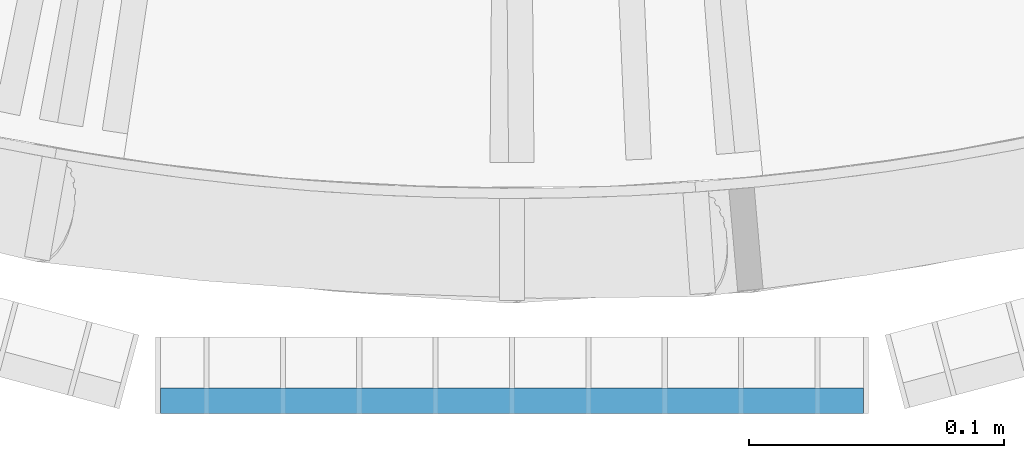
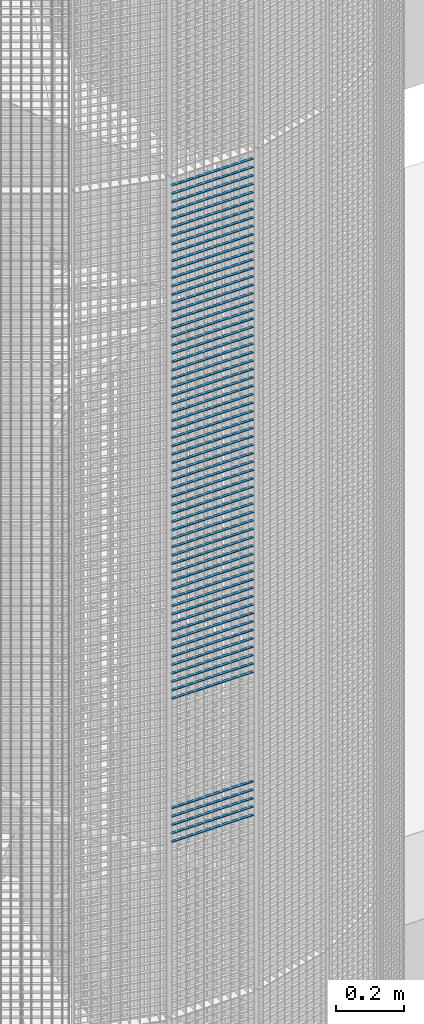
# One storey, part 388 of 1148: 67 beams, 1 element without a shape of its own.
"""IFC2X3 building model written with IfcOpenShell, lengths in millimetres."""

from ifc_helpers import new_model, si_unit, frame, origin_with_axes, origin_2d_with_axis, place, context, subcontext, project, spatial, rectangle, extrude, material, type_object, element, aggregate, save


model = new_model("IFC2X3")

# Units and contexts
model_context = context("Model", 3, precision=1e-05, world=origin_with_axes())
body_context = subcontext(model_context, "Body", "Model", "MODEL_VIEW")
ifc_project = project(units=[si_unit("LENGTHUNIT", "METRE", prefix="MILLI"), si_unit("AREAUNIT", "SQUARE_METRE"), si_unit("VOLUMEUNIT", "CUBIC_METRE"), si_unit("MASSUNIT", "GRAM", prefix="KILO"), si_unit("TIMEUNIT", "SECOND"), si_unit("PLANEANGLEUNIT", "RADIAN"), si_unit("SOLIDANGLEUNIT", "STERADIAN"), si_unit("THERMODYNAMICTEMPERATUREUNIT", "DEGREE_CELSIUS"), si_unit("LUMINOUSINTENSITYUNIT", "LUMEN")], contexts=[model_context])

# Site, building, storey
site_placement = place(None, origin_with_axes())
site = spatial("IfcSite", under=ifc_project, at=site_placement, Name="Undefined", CompositionType="ELEMENT")
building_placement = place(site_placement, origin_with_axes())
building = spatial("IfcBuilding", under=site, at=building_placement, Name="Undefined", CompositionType="ELEMENT")
storey_placement = place(building_placement, origin_with_axes())
storey = spatial("IfcBuildingStorey", under=building, at=storey_placement, Name="Undefined", CompositionType="ELEMENT", Elevation=0.0)

# Assembly, beams
assembly_placement = place(storey_placement, origin_with_axes())
assembly = element("IfcElementAssembly", 1, at=assembly_placement, inside=storey, Name="BORDURE", AssemblyPlace="NOTDEFINED", PredefinedType="NOTDEFINED")
ifc_material = material(Name="STEEL/S235JR")
beam_type = type_object("IfcBeamType", Name="PL2*10", PredefinedType="NOTDEFINED")
beam_1_placement = place(assembly_placement, frame((21737.9960033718, -1113.47999999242, 11970.0), z_axis=(0.0, -1.0, 0.0), x_axis=(-1.0, 0.0, 0.0)))
beam_1 = element("IfcBeam", 2, at=beam_1_placement, type_object=beam_type, material=ifc_material, Name="ENTRETOISE", context=body_context, shape_type="SweptSolid", body=[
    extrude(rectangle(XDim=2.0, YDim=10.0, at=origin_2d_with_axis()), frame((275.999999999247, 9.09494701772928e-13, 1.53210777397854e-14), z_axis=(-1.0, 0.0, 0.0), x_axis=(0.0, -1.0, 0.0)), (0.0, 0.0, 1.0), 276.0),
])
beam_2_placement = place(assembly_placement, frame((21737.9960033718, -1113.47999999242, 11940.0), z_axis=(0.0, -1.0, 0.0), x_axis=(-1.0, 0.0, 0.0)))
beam_2 = element("IfcBeam", 3, at=beam_2_placement, type_object=beam_type, material=ifc_material, Name="ENTRETOISE", context=body_context, shape_type="SweptSolid", body=[
    extrude(rectangle(XDim=2.0, YDim=10.0, at=origin_2d_with_axis()), frame((275.999999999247, 9.09494701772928e-13, 1.53210777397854e-14), z_axis=(-1.0, 0.0, 0.0), x_axis=(0.0, -1.0, 0.0)), (0.0, 0.0, 1.0), 276.0),
])
beam_3_placement = place(assembly_placement, frame((21737.9960033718, -1113.47999999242, 11910.0), z_axis=(0.0, -1.0, 0.0), x_axis=(-1.0, 0.0, 0.0)))
beam_3 = element("IfcBeam", 4, at=beam_3_placement, type_object=beam_type, material=ifc_material, Name="ENTRETOISE", context=body_context, shape_type="SweptSolid", body=[
    extrude(rectangle(XDim=2.0, YDim=10.0, at=origin_2d_with_axis()), frame((275.999999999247, 9.09494701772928e-13, 1.53210777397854e-14), z_axis=(-1.0, 0.0, 0.0), x_axis=(0.0, -1.0, 0.0)), (0.0, 0.0, 1.0), 276.0),
])
beam_4_placement = place(assembly_placement, frame((21737.9960033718, -1113.47999999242, 11880.0), z_axis=(0.0, -1.0, 0.0), x_axis=(-1.0, 0.0, 0.0)))
beam_4 = element("IfcBeam", 5, at=beam_4_placement, type_object=beam_type, material=ifc_material, Name="ENTRETOISE", context=body_context, shape_type="SweptSolid", body=[
    extrude(rectangle(XDim=2.0, YDim=10.0, at=origin_2d_with_axis()), frame((275.999999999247, 9.09494701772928e-13, 1.53210777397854e-14), z_axis=(-1.0, 0.0, 0.0), x_axis=(0.0, -1.0, 0.0)), (0.0, 0.0, 1.0), 276.0),
])
beam_5_placement = place(assembly_placement, frame((21737.9960033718, -1113.47999999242, 11850.0), z_axis=(0.0, -1.0, 0.0), x_axis=(-1.0, 0.0, 0.0)))
beam_5 = element("IfcBeam", 6, at=beam_5_placement, type_object=beam_type, material=ifc_material, Name="ENTRETOISE", context=body_context, shape_type="SweptSolid", body=[
    extrude(rectangle(XDim=2.0, YDim=10.0, at=origin_2d_with_axis()), frame((275.999999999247, 9.09494701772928e-13, 1.53210777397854e-14), z_axis=(-1.0, 0.0, 0.0), x_axis=(0.0, -1.0, 0.0)), (0.0, 0.0, 1.0), 276.0),
])
beam_6_placement = place(assembly_placement, frame((21737.9960033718, -1113.47999999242, 11820.0), z_axis=(0.0, -1.0, 0.0), x_axis=(-1.0, 0.0, 0.0)))
beam_6 = element("IfcBeam", 7, at=beam_6_placement, type_object=beam_type, material=ifc_material, Name="ENTRETOISE", context=body_context, shape_type="SweptSolid", body=[
    extrude(rectangle(XDim=2.0, YDim=10.0, at=origin_2d_with_axis()), frame((275.999999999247, 9.09494701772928e-13, 1.53210777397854e-14), z_axis=(-1.0, 0.0, 0.0), x_axis=(0.0, -1.0, 0.0)), (0.0, 0.0, 1.0), 276.0),
])
beam_7_placement = place(assembly_placement, frame((21737.9960033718, -1113.47999999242, 11790.0), z_axis=(0.0, -1.0, 0.0), x_axis=(-1.0, 0.0, 0.0)))
beam_7 = element("IfcBeam", 8, at=beam_7_placement, type_object=beam_type, material=ifc_material, Name="ENTRETOISE", context=body_context, shape_type="SweptSolid", body=[
    extrude(rectangle(XDim=2.0, YDim=10.0, at=origin_2d_with_axis()), frame((275.999999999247, 9.09494701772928e-13, 1.53210777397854e-14), z_axis=(-1.0, 0.0, 0.0), x_axis=(0.0, -1.0, 0.0)), (0.0, 0.0, 1.0), 276.0),
])
beam_8_placement = place(assembly_placement, frame((21737.9960033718, -1113.47999999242, 11760.0), z_axis=(0.0, -1.0, 0.0), x_axis=(-1.0, 0.0, 0.0)))
beam_8 = element("IfcBeam", 9, at=beam_8_placement, type_object=beam_type, material=ifc_material, Name="ENTRETOISE", context=body_context, shape_type="SweptSolid", body=[
    extrude(rectangle(XDim=2.0, YDim=10.0, at=origin_2d_with_axis()), frame((275.999999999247, 9.09494701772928e-13, 1.53210777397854e-14), z_axis=(-1.0, 0.0, 0.0), x_axis=(0.0, -1.0, 0.0)), (0.0, 0.0, 1.0), 276.0),
])
beam_9_placement = place(assembly_placement, frame((21737.9960033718, -1113.47999999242, 11730.0), z_axis=(0.0, -1.0, 0.0), x_axis=(-1.0, 0.0, 0.0)))
beam_9 = element("IfcBeam", 10, at=beam_9_placement, type_object=beam_type, material=ifc_material, Name="ENTRETOISE", context=body_context, shape_type="SweptSolid", body=[
    extrude(rectangle(XDim=2.0, YDim=10.0, at=origin_2d_with_axis()), frame((275.999999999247, 9.09494701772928e-13, 1.53210777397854e-14), z_axis=(-1.0, 0.0, 0.0), x_axis=(0.0, -1.0, 0.0)), (0.0, 0.0, 1.0), 276.0),
])
beam_10_placement = place(assembly_placement, frame((21737.9960033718, -1113.47999999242, 11700.0), z_axis=(0.0, -1.0, 0.0), x_axis=(-1.0, 0.0, 0.0)))
beam_10 = element("IfcBeam", 11, at=beam_10_placement, type_object=beam_type, material=ifc_material, Name="ENTRETOISE", context=body_context, shape_type="SweptSolid", body=[
    extrude(rectangle(XDim=2.0, YDim=10.0, at=origin_2d_with_axis()), frame((275.999999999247, 9.09494701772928e-13, 1.53210777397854e-14), z_axis=(-1.0, 0.0, 0.0), x_axis=(0.0, -1.0, 0.0)), (0.0, 0.0, 1.0), 276.0),
])
beam_11_placement = place(assembly_placement, frame((21737.9960033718, -1113.47999999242, 11670.0), z_axis=(0.0, -1.0, 0.0), x_axis=(-1.0, 0.0, 0.0)))
beam_11 = element("IfcBeam", 12, at=beam_11_placement, type_object=beam_type, material=ifc_material, Name="ENTRETOISE", context=body_context, shape_type="SweptSolid", body=[
    extrude(rectangle(XDim=2.0, YDim=10.0, at=origin_2d_with_axis()), frame((275.999999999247, 9.09494701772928e-13, 1.53210777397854e-14), z_axis=(-1.0, 0.0, 0.0), x_axis=(0.0, -1.0, 0.0)), (0.0, 0.0, 1.0), 276.0),
])
beam_12_placement = place(assembly_placement, frame((21737.9960033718, -1113.47999999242, 11640.0), z_axis=(0.0, -1.0, 0.0), x_axis=(-1.0, 0.0, 0.0)))
beam_12 = element("IfcBeam", 13, at=beam_12_placement, type_object=beam_type, material=ifc_material, Name="ENTRETOISE", context=body_context, shape_type="SweptSolid", body=[
    extrude(rectangle(XDim=2.0, YDim=10.0, at=origin_2d_with_axis()), frame((275.999999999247, 9.09494701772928e-13, 1.53210777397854e-14), z_axis=(-1.0, 0.0, 0.0), x_axis=(0.0, -1.0, 0.0)), (0.0, 0.0, 1.0), 276.0),
])
beam_13_placement = place(assembly_placement, frame((21737.9960033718, -1113.47999999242, 11610.0), z_axis=(0.0, -1.0, 0.0), x_axis=(-1.0, 0.0, 0.0)))
beam_13 = element("IfcBeam", 14, at=beam_13_placement, type_object=beam_type, material=ifc_material, Name="ENTRETOISE", context=body_context, shape_type="SweptSolid", body=[
    extrude(rectangle(XDim=2.0, YDim=10.0, at=origin_2d_with_axis()), frame((275.999999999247, 9.09494701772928e-13, 1.53210777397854e-14), z_axis=(-1.0, 0.0, 0.0), x_axis=(0.0, -1.0, 0.0)), (0.0, 0.0, 1.0), 276.0),
])
beam_14_placement = place(assembly_placement, frame((21737.9960033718, -1113.47999999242, 11580.0), z_axis=(0.0, -1.0, 0.0), x_axis=(-1.0, 0.0, 0.0)))
beam_14 = element("IfcBeam", 15, at=beam_14_placement, type_object=beam_type, material=ifc_material, Name="ENTRETOISE", context=body_context, shape_type="SweptSolid", body=[
    extrude(rectangle(XDim=2.0, YDim=10.0, at=origin_2d_with_axis()), frame((275.999999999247, 9.09494701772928e-13, 1.53210777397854e-14), z_axis=(-1.0, 0.0, 0.0), x_axis=(0.0, -1.0, 0.0)), (0.0, 0.0, 1.0), 276.0),
])
beam_15_placement = place(assembly_placement, frame((21737.9960033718, -1113.47999999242, 11550.0), z_axis=(0.0, -1.0, 0.0), x_axis=(-1.0, 0.0, 0.0)))
beam_15 = element("IfcBeam", 16, at=beam_15_placement, type_object=beam_type, material=ifc_material, Name="ENTRETOISE", context=body_context, shape_type="SweptSolid", body=[
    extrude(rectangle(XDim=2.0, YDim=10.0, at=origin_2d_with_axis()), frame((275.999999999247, 9.09494701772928e-13, 1.53210777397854e-14), z_axis=(-1.0, 0.0, 0.0), x_axis=(0.0, -1.0, 0.0)), (0.0, 0.0, 1.0), 276.0),
])
beam_16_placement = place(assembly_placement, frame((21737.9960033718, -1113.47999999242, 11520.0), z_axis=(0.0, -1.0, 0.0), x_axis=(-1.0, 0.0, 0.0)))
beam_16 = element("IfcBeam", 17, at=beam_16_placement, type_object=beam_type, material=ifc_material, Name="ENTRETOISE", context=body_context, shape_type="SweptSolid", body=[
    extrude(rectangle(XDim=2.0, YDim=10.0, at=origin_2d_with_axis()), frame((275.999999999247, 9.09494701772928e-13, 1.53210777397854e-14), z_axis=(-1.0, 0.0, 0.0), x_axis=(0.0, -1.0, 0.0)), (0.0, 0.0, 1.0), 276.0),
])
beam_17_placement = place(assembly_placement, frame((21737.9960033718, -1113.47999999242, 11490.0), z_axis=(0.0, -1.0, 0.0), x_axis=(-1.0, 0.0, 0.0)))
beam_17 = element("IfcBeam", 18, at=beam_17_placement, type_object=beam_type, material=ifc_material, Name="ENTRETOISE", context=body_context, shape_type="SweptSolid", body=[
    extrude(rectangle(XDim=2.0, YDim=10.0, at=origin_2d_with_axis()), frame((275.999999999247, 9.09494701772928e-13, 1.53210777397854e-14), z_axis=(-1.0, 0.0, 0.0), x_axis=(0.0, -1.0, 0.0)), (0.0, 0.0, 1.0), 276.0),
])
beam_18_placement = place(assembly_placement, frame((21737.9960033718, -1113.47999999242, 11460.0), z_axis=(0.0, -1.0, 0.0), x_axis=(-1.0, 0.0, 0.0)))
beam_18 = element("IfcBeam", 19, at=beam_18_placement, type_object=beam_type, material=ifc_material, Name="ENTRETOISE", context=body_context, shape_type="SweptSolid", body=[
    extrude(rectangle(XDim=2.0, YDim=10.0, at=origin_2d_with_axis()), frame((275.999999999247, 9.09494701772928e-13, 1.53210777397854e-14), z_axis=(-1.0, 0.0, 0.0), x_axis=(0.0, -1.0, 0.0)), (0.0, 0.0, 1.0), 276.0),
])
beam_19_placement = place(assembly_placement, frame((21737.9960033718, -1113.47999999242, 11430.0), z_axis=(0.0, -1.0, 0.0), x_axis=(-1.0, 0.0, 0.0)))
beam_19 = element("IfcBeam", 20, at=beam_19_placement, type_object=beam_type, material=ifc_material, Name="ENTRETOISE", context=body_context, shape_type="SweptSolid", body=[
    extrude(rectangle(XDim=2.0, YDim=10.0, at=origin_2d_with_axis()), frame((275.999999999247, 9.09494701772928e-13, 1.53210777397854e-14), z_axis=(-1.0, 0.0, 0.0), x_axis=(0.0, -1.0, 0.0)), (0.0, 0.0, 1.0), 276.0),
])
beam_20_placement = place(assembly_placement, frame((21737.9960033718, -1113.47999999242, 11400.0), z_axis=(0.0, -1.0, 0.0), x_axis=(-1.0, 0.0, 0.0)))
beam_20 = element("IfcBeam", 21, at=beam_20_placement, type_object=beam_type, material=ifc_material, Name="ENTRETOISE", context=body_context, shape_type="SweptSolid", body=[
    extrude(rectangle(XDim=2.0, YDim=10.0, at=origin_2d_with_axis()), frame((275.999999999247, 9.09494701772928e-13, 1.53210777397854e-14), z_axis=(-1.0, 0.0, 0.0), x_axis=(0.0, -1.0, 0.0)), (0.0, 0.0, 1.0), 276.0),
])
beam_21_placement = place(assembly_placement, frame((21737.9960033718, -1113.47999999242, 11370.0), z_axis=(0.0, -1.0, 0.0), x_axis=(-1.0, 0.0, 0.0)))
beam_21 = element("IfcBeam", 22, at=beam_21_placement, type_object=beam_type, material=ifc_material, Name="ENTRETOISE", context=body_context, shape_type="SweptSolid", body=[
    extrude(rectangle(XDim=2.0, YDim=10.0, at=origin_2d_with_axis()), frame((275.999999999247, 9.09494701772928e-13, 1.53210777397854e-14), z_axis=(-1.0, 0.0, 0.0), x_axis=(0.0, -1.0, 0.0)), (0.0, 0.0, 1.0), 276.0),
])
beam_22_placement = place(assembly_placement, frame((21737.9960033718, -1113.47999999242, 11340.0), z_axis=(0.0, -1.0, 0.0), x_axis=(-1.0, 0.0, 0.0)))
beam_22 = element("IfcBeam", 23, at=beam_22_placement, type_object=beam_type, material=ifc_material, Name="ENTRETOISE", context=body_context, shape_type="SweptSolid", body=[
    extrude(rectangle(XDim=2.0, YDim=10.0, at=origin_2d_with_axis()), frame((275.999999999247, 9.09494701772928e-13, 1.53210777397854e-14), z_axis=(-1.0, 0.0, 0.0), x_axis=(0.0, -1.0, 0.0)), (0.0, 0.0, 1.0), 276.0),
])
beam_23_placement = place(assembly_placement, frame((21737.9960033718, -1113.47999999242, 11310.0), z_axis=(0.0, -1.0, 0.0), x_axis=(-1.0, 0.0, 0.0)))
beam_23 = element("IfcBeam", 24, at=beam_23_placement, type_object=beam_type, material=ifc_material, Name="ENTRETOISE", context=body_context, shape_type="SweptSolid", body=[
    extrude(rectangle(XDim=2.0, YDim=10.0, at=origin_2d_with_axis()), frame((275.999999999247, 9.09494701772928e-13, 1.53210777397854e-14), z_axis=(-1.0, 0.0, 0.0), x_axis=(0.0, -1.0, 0.0)), (0.0, 0.0, 1.0), 276.0),
])
beam_24_placement = place(assembly_placement, frame((21737.9960033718, -1113.47999999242, 11280.0), z_axis=(0.0, -1.0, 0.0), x_axis=(-1.0, 0.0, 0.0)))
beam_24 = element("IfcBeam", 25, at=beam_24_placement, type_object=beam_type, material=ifc_material, Name="ENTRETOISE", context=body_context, shape_type="SweptSolid", body=[
    extrude(rectangle(XDim=2.0, YDim=10.0, at=origin_2d_with_axis()), frame((275.999999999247, 9.09494701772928e-13, 1.53210777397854e-14), z_axis=(-1.0, 0.0, 0.0), x_axis=(0.0, -1.0, 0.0)), (0.0, 0.0, 1.0), 276.0),
])
beam_25_placement = place(assembly_placement, frame((21737.9960033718, -1113.47999999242, 11250.0), z_axis=(0.0, -1.0, 0.0), x_axis=(-1.0, 0.0, 0.0)))
beam_25 = element("IfcBeam", 26, at=beam_25_placement, type_object=beam_type, material=ifc_material, Name="ENTRETOISE", context=body_context, shape_type="SweptSolid", body=[
    extrude(rectangle(XDim=2.0, YDim=10.0, at=origin_2d_with_axis()), frame((275.999999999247, 9.09494701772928e-13, 1.53210777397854e-14), z_axis=(-1.0, 0.0, 0.0), x_axis=(0.0, -1.0, 0.0)), (0.0, 0.0, 1.0), 276.0),
])
beam_26_placement = place(assembly_placement, frame((21737.9960033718, -1113.47999999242, 11220.0), z_axis=(0.0, -1.0, 0.0), x_axis=(-1.0, 0.0, 0.0)))
beam_26 = element("IfcBeam", 27, at=beam_26_placement, type_object=beam_type, material=ifc_material, Name="ENTRETOISE", context=body_context, shape_type="SweptSolid", body=[
    extrude(rectangle(XDim=2.0, YDim=10.0, at=origin_2d_with_axis()), frame((275.999999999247, 9.09494701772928e-13, 1.53210777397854e-14), z_axis=(-1.0, 0.0, 0.0), x_axis=(0.0, -1.0, 0.0)), (0.0, 0.0, 1.0), 276.0),
])
beam_27_placement = place(assembly_placement, frame((21737.9960033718, -1113.47999999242, 11190.0), z_axis=(0.0, -1.0, 0.0), x_axis=(-1.0, 0.0, 0.0)))
beam_27 = element("IfcBeam", 28, at=beam_27_placement, type_object=beam_type, material=ifc_material, Name="ENTRETOISE", context=body_context, shape_type="SweptSolid", body=[
    extrude(rectangle(XDim=2.0, YDim=10.0, at=origin_2d_with_axis()), frame((275.999999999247, 9.09494701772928e-13, 1.53210777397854e-14), z_axis=(-1.0, 0.0, 0.0), x_axis=(0.0, -1.0, 0.0)), (0.0, 0.0, 1.0), 276.0),
])
beam_28_placement = place(assembly_placement, frame((21737.9960033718, -1113.47999999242, 11160.0), z_axis=(0.0, -1.0, 0.0), x_axis=(-1.0, 0.0, 0.0)))
beam_28 = element("IfcBeam", 29, at=beam_28_placement, type_object=beam_type, material=ifc_material, Name="ENTRETOISE", context=body_context, shape_type="SweptSolid", body=[
    extrude(rectangle(XDim=2.0, YDim=10.0, at=origin_2d_with_axis()), frame((275.999999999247, 9.09494701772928e-13, 1.53210777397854e-14), z_axis=(-1.0, 0.0, 0.0), x_axis=(0.0, -1.0, 0.0)), (0.0, 0.0, 1.0), 276.0),
])
beam_29_placement = place(assembly_placement, frame((21737.9960033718, -1113.47999999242, 11130.0), z_axis=(0.0, -1.0, 0.0), x_axis=(-1.0, 0.0, 0.0)))
beam_29 = element("IfcBeam", 30, at=beam_29_placement, type_object=beam_type, material=ifc_material, Name="ENTRETOISE", context=body_context, shape_type="SweptSolid", body=[
    extrude(rectangle(XDim=2.0, YDim=10.0, at=origin_2d_with_axis()), frame((275.999999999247, 9.09494701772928e-13, 1.53210777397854e-14), z_axis=(-1.0, 0.0, 0.0), x_axis=(0.0, -1.0, 0.0)), (0.0, 0.0, 1.0), 276.0),
])
beam_30_placement = place(assembly_placement, frame((21737.9960033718, -1113.47999999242, 11100.0), z_axis=(0.0, -1.0, 0.0), x_axis=(-1.0, 0.0, 0.0)))
beam_30 = element("IfcBeam", 31, at=beam_30_placement, type_object=beam_type, material=ifc_material, Name="ENTRETOISE", context=body_context, shape_type="SweptSolid", body=[
    extrude(rectangle(XDim=2.0, YDim=10.0, at=origin_2d_with_axis()), frame((275.999999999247, 9.09494701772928e-13, 1.53210777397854e-14), z_axis=(-1.0, 0.0, 0.0), x_axis=(0.0, -1.0, 0.0)), (0.0, 0.0, 1.0), 276.0),
])
beam_31_placement = place(assembly_placement, frame((21737.9960033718, -1113.47999999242, 11070.0), z_axis=(0.0, -1.0, 0.0), x_axis=(-1.0, 0.0, 0.0)))
beam_31 = element("IfcBeam", 32, at=beam_31_placement, type_object=beam_type, material=ifc_material, Name="ENTRETOISE", context=body_context, shape_type="SweptSolid", body=[
    extrude(rectangle(XDim=2.0, YDim=10.0, at=origin_2d_with_axis()), frame((275.999999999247, 9.09494701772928e-13, 1.53210777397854e-14), z_axis=(-1.0, 0.0, 0.0), x_axis=(0.0, -1.0, 0.0)), (0.0, 0.0, 1.0), 276.0),
])
beam_32_placement = place(assembly_placement, frame((21737.9960033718, -1113.47999999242, 11040.0), z_axis=(0.0, -1.0, 0.0), x_axis=(-1.0, 0.0, 0.0)))
beam_32 = element("IfcBeam", 33, at=beam_32_placement, type_object=beam_type, material=ifc_material, Name="ENTRETOISE", context=body_context, shape_type="SweptSolid", body=[
    extrude(rectangle(XDim=2.0, YDim=10.0, at=origin_2d_with_axis()), frame((275.999999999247, 9.09494701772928e-13, 1.53210777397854e-14), z_axis=(-1.0, 0.0, 0.0), x_axis=(0.0, -1.0, 0.0)), (0.0, 0.0, 1.0), 276.0),
])
beam_33_placement = place(assembly_placement, frame((21737.9960033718, -1113.47999999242, 11010.0), z_axis=(0.0, -1.0, 0.0), x_axis=(-1.0, 0.0, 0.0)))
beam_33 = element("IfcBeam", 34, at=beam_33_placement, type_object=beam_type, material=ifc_material, Name="ENTRETOISE", context=body_context, shape_type="SweptSolid", body=[
    extrude(rectangle(XDim=2.0, YDim=10.0, at=origin_2d_with_axis()), frame((275.999999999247, 9.09494701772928e-13, 1.53210777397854e-14), z_axis=(-1.0, 0.0, 0.0), x_axis=(0.0, -1.0, 0.0)), (0.0, 0.0, 1.0), 276.0),
])
beam_34_placement = place(assembly_placement, frame((21737.9960033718, -1113.47999999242, 10980.0), z_axis=(0.0, -1.0, 0.0), x_axis=(-1.0, 0.0, 0.0)))
beam_34 = element("IfcBeam", 35, at=beam_34_placement, type_object=beam_type, material=ifc_material, Name="ENTRETOISE", context=body_context, shape_type="SweptSolid", body=[
    extrude(rectangle(XDim=2.0, YDim=10.0, at=origin_2d_with_axis()), frame((275.999999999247, 9.09494701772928e-13, 1.53210777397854e-14), z_axis=(-1.0, 0.0, 0.0), x_axis=(0.0, -1.0, 0.0)), (0.0, 0.0, 1.0), 276.0),
])
beam_35_placement = place(assembly_placement, frame((21737.9960033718, -1113.47999999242, 10950.0), z_axis=(0.0, -1.0, 0.0), x_axis=(-1.0, 0.0, 0.0)))
beam_35 = element("IfcBeam", 36, at=beam_35_placement, type_object=beam_type, material=ifc_material, Name="ENTRETOISE", context=body_context, shape_type="SweptSolid", body=[
    extrude(rectangle(XDim=2.0, YDim=10.0, at=origin_2d_with_axis()), frame((275.999999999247, 9.09494701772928e-13, 1.53210777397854e-14), z_axis=(-1.0, 0.0, 0.0), x_axis=(0.0, -1.0, 0.0)), (0.0, 0.0, 1.0), 276.0),
])
beam_36_placement = place(assembly_placement, frame((21737.9960033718, -1113.47999999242, 10920.0), z_axis=(0.0, -1.0, 0.0), x_axis=(-1.0, 0.0, 0.0)))
beam_36 = element("IfcBeam", 37, at=beam_36_placement, type_object=beam_type, material=ifc_material, Name="ENTRETOISE", context=body_context, shape_type="SweptSolid", body=[
    extrude(rectangle(XDim=2.0, YDim=10.0, at=origin_2d_with_axis()), frame((275.999999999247, 9.09494701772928e-13, 1.53210777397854e-14), z_axis=(-1.0, 0.0, 0.0), x_axis=(0.0, -1.0, 0.0)), (0.0, 0.0, 1.0), 276.0),
])
beam_37_placement = place(assembly_placement, frame((21737.9960033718, -1113.47999999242, 10890.0), z_axis=(0.0, -1.0, 0.0), x_axis=(-1.0, 0.0, 0.0)))
beam_37 = element("IfcBeam", 38, at=beam_37_placement, type_object=beam_type, material=ifc_material, Name="ENTRETOISE", context=body_context, shape_type="SweptSolid", body=[
    extrude(rectangle(XDim=2.0, YDim=10.0, at=origin_2d_with_axis()), frame((275.999999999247, 9.09494701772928e-13, 1.53210777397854e-14), z_axis=(-1.0, 0.0, 0.0), x_axis=(0.0, -1.0, 0.0)), (0.0, 0.0, 1.0), 276.0),
])
beam_38_placement = place(assembly_placement, frame((21737.9960033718, -1113.47999999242, 10860.0), z_axis=(0.0, -1.0, 0.0), x_axis=(-1.0, 0.0, 0.0)))
beam_38 = element("IfcBeam", 39, at=beam_38_placement, type_object=beam_type, material=ifc_material, Name="ENTRETOISE", context=body_context, shape_type="SweptSolid", body=[
    extrude(rectangle(XDim=2.0, YDim=10.0, at=origin_2d_with_axis()), frame((275.999999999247, 9.09494701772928e-13, 1.53210777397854e-14), z_axis=(-1.0, 0.0, 0.0), x_axis=(0.0, -1.0, 0.0)), (0.0, 0.0, 1.0), 276.0),
])
beam_39_placement = place(assembly_placement, frame((21737.9960033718, -1113.47999999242, 10830.0), z_axis=(0.0, -1.0, 0.0), x_axis=(-1.0, 0.0, 0.0)))
beam_39 = element("IfcBeam", 40, at=beam_39_placement, type_object=beam_type, material=ifc_material, Name="ENTRETOISE", context=body_context, shape_type="SweptSolid", body=[
    extrude(rectangle(XDim=2.0, YDim=10.0, at=origin_2d_with_axis()), frame((275.999999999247, 9.09494701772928e-13, 1.53210777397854e-14), z_axis=(-1.0, 0.0, 0.0), x_axis=(0.0, -1.0, 0.0)), (0.0, 0.0, 1.0), 276.0),
])
beam_40_placement = place(assembly_placement, frame((21737.9960033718, -1113.47999999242, 10800.0), z_axis=(0.0, -1.0, 0.0), x_axis=(-1.0, 0.0, 0.0)))
beam_40 = element("IfcBeam", 41, at=beam_40_placement, type_object=beam_type, material=ifc_material, Name="ENTRETOISE", context=body_context, shape_type="SweptSolid", body=[
    extrude(rectangle(XDim=2.0, YDim=10.0, at=origin_2d_with_axis()), frame((275.999999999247, 9.09494701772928e-13, 1.53210777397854e-14), z_axis=(-1.0, 0.0, 0.0), x_axis=(0.0, -1.0, 0.0)), (0.0, 0.0, 1.0), 276.0),
])
beam_41_placement = place(assembly_placement, frame((21737.9960033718, -1113.47999999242, 10770.0), z_axis=(0.0, -1.0, 0.0), x_axis=(-1.0, 0.0, 0.0)))
beam_41 = element("IfcBeam", 42, at=beam_41_placement, type_object=beam_type, material=ifc_material, Name="ENTRETOISE", context=body_context, shape_type="SweptSolid", body=[
    extrude(rectangle(XDim=2.0, YDim=10.0, at=origin_2d_with_axis()), frame((275.999999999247, 9.09494701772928e-13, 1.53210777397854e-14), z_axis=(-1.0, 0.0, 0.0), x_axis=(0.0, -1.0, 0.0)), (0.0, 0.0, 1.0), 276.0),
])
beam_42_placement = place(assembly_placement, frame((21737.9960033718, -1113.47999999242, 10740.0), z_axis=(0.0, -1.0, 0.0), x_axis=(-1.0, 0.0, 0.0)))
beam_42 = element("IfcBeam", 43, at=beam_42_placement, type_object=beam_type, material=ifc_material, Name="ENTRETOISE", context=body_context, shape_type="SweptSolid", body=[
    extrude(rectangle(XDim=2.0, YDim=10.0, at=origin_2d_with_axis()), frame((275.999999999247, 9.09494701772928e-13, 1.53210777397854e-14), z_axis=(-1.0, 0.0, 0.0), x_axis=(0.0, -1.0, 0.0)), (0.0, 0.0, 1.0), 276.0),
])
beam_43_placement = place(assembly_placement, frame((21737.9960033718, -1113.47999999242, 10710.0), z_axis=(0.0, -1.0, 0.0), x_axis=(-1.0, 0.0, 0.0)))
beam_43 = element("IfcBeam", 44, at=beam_43_placement, type_object=beam_type, material=ifc_material, Name="ENTRETOISE", context=body_context, shape_type="SweptSolid", body=[
    extrude(rectangle(XDim=2.0, YDim=10.0, at=origin_2d_with_axis()), frame((275.999999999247, 9.09494701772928e-13, 1.53210777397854e-14), z_axis=(-1.0, 0.0, 0.0), x_axis=(0.0, -1.0, 0.0)), (0.0, 0.0, 1.0), 276.0),
])
beam_44_placement = place(assembly_placement, frame((21737.9960033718, -1113.47999999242, 10680.0), z_axis=(0.0, -1.0, 0.0), x_axis=(-1.0, 0.0, 0.0)))
beam_44 = element("IfcBeam", 45, at=beam_44_placement, type_object=beam_type, material=ifc_material, Name="ENTRETOISE", context=body_context, shape_type="SweptSolid", body=[
    extrude(rectangle(XDim=2.0, YDim=10.0, at=origin_2d_with_axis()), frame((275.999999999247, 9.09494701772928e-13, 1.53210777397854e-14), z_axis=(-1.0, 0.0, 0.0), x_axis=(0.0, -1.0, 0.0)), (0.0, 0.0, 1.0), 276.0),
])
beam_45_placement = place(assembly_placement, frame((21737.9960033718, -1113.47999999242, 10650.0), z_axis=(0.0, -1.0, 0.0), x_axis=(-1.0, 0.0, 0.0)))
beam_45 = element("IfcBeam", 46, at=beam_45_placement, type_object=beam_type, material=ifc_material, Name="ENTRETOISE", context=body_context, shape_type="SweptSolid", body=[
    extrude(rectangle(XDim=2.0, YDim=10.0, at=origin_2d_with_axis()), frame((275.999999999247, 9.09494701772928e-13, 1.53210777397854e-14), z_axis=(-1.0, 0.0, 0.0), x_axis=(0.0, -1.0, 0.0)), (0.0, 0.0, 1.0), 276.0),
])
beam_46_placement = place(assembly_placement, frame((21737.9960033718, -1113.47999999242, 10620.0), z_axis=(0.0, -1.0, 0.0), x_axis=(-1.0, 0.0, 0.0)))
beam_46 = element("IfcBeam", 47, at=beam_46_placement, type_object=beam_type, material=ifc_material, Name="ENTRETOISE", context=body_context, shape_type="SweptSolid", body=[
    extrude(rectangle(XDim=2.0, YDim=10.0, at=origin_2d_with_axis()), frame((275.999999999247, 9.09494701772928e-13, 1.53210777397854e-14), z_axis=(-1.0, 0.0, 0.0), x_axis=(0.0, -1.0, 0.0)), (0.0, 0.0, 1.0), 276.0),
])
beam_47_placement = place(assembly_placement, frame((21737.9960033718, -1113.47999999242, 10590.0), z_axis=(0.0, -1.0, 0.0), x_axis=(-1.0, 0.0, 0.0)))
beam_47 = element("IfcBeam", 48, at=beam_47_placement, type_object=beam_type, material=ifc_material, Name="ENTRETOISE", context=body_context, shape_type="SweptSolid", body=[
    extrude(rectangle(XDim=2.0, YDim=10.0, at=origin_2d_with_axis()), frame((275.999999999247, 9.09494701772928e-13, 1.53210777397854e-14), z_axis=(-1.0, 0.0, 0.0), x_axis=(0.0, -1.0, 0.0)), (0.0, 0.0, 1.0), 276.0),
])
beam_48_placement = place(assembly_placement, frame((21737.9960033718, -1113.47999999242, 10560.0), z_axis=(0.0, -1.0, 0.0), x_axis=(-1.0, 0.0, 0.0)))
beam_48 = element("IfcBeam", 49, at=beam_48_placement, type_object=beam_type, material=ifc_material, Name="ENTRETOISE", context=body_context, shape_type="SweptSolid", body=[
    extrude(rectangle(XDim=2.0, YDim=10.0, at=origin_2d_with_axis()), frame((275.999999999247, 9.09494701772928e-13, 1.53210777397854e-14), z_axis=(-1.0, 0.0, 0.0), x_axis=(0.0, -1.0, 0.0)), (0.0, 0.0, 1.0), 276.0),
])
beam_49_placement = place(assembly_placement, frame((21737.9960033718, -1113.47999999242, 10530.0), z_axis=(0.0, -1.0, 0.0), x_axis=(-1.0, 0.0, 0.0)))
beam_49 = element("IfcBeam", 50, at=beam_49_placement, type_object=beam_type, material=ifc_material, Name="ENTRETOISE", context=body_context, shape_type="SweptSolid", body=[
    extrude(rectangle(XDim=2.0, YDim=10.0, at=origin_2d_with_axis()), frame((275.999999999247, 9.09494701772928e-13, 1.53210777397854e-14), z_axis=(-1.0, 0.0, 0.0), x_axis=(0.0, -1.0, 0.0)), (0.0, 0.0, 1.0), 276.0),
])
beam_50_placement = place(assembly_placement, frame((21737.9960033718, -1113.47999999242, 10500.0), z_axis=(0.0, -1.0, 0.0), x_axis=(-1.0, 0.0, 0.0)))
beam_50 = element("IfcBeam", 51, at=beam_50_placement, type_object=beam_type, material=ifc_material, Name="ENTRETOISE", context=body_context, shape_type="SweptSolid", body=[
    extrude(rectangle(XDim=2.0, YDim=10.0, at=origin_2d_with_axis()), frame((275.999999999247, 9.09494701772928e-13, 1.53210777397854e-14), z_axis=(-1.0, 0.0, 0.0), x_axis=(0.0, -1.0, 0.0)), (0.0, 0.0, 1.0), 276.0),
])
beam_51_placement = place(assembly_placement, frame((21737.9960033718, -1113.47999999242, 10470.0), z_axis=(0.0, -1.0, 0.0), x_axis=(-1.0, 0.0, 0.0)))
beam_51 = element("IfcBeam", 52, at=beam_51_placement, type_object=beam_type, material=ifc_material, Name="ENTRETOISE", context=body_context, shape_type="SweptSolid", body=[
    extrude(rectangle(XDim=2.0, YDim=10.0, at=origin_2d_with_axis()), frame((275.999999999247, 9.09494701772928e-13, 1.53210777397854e-14), z_axis=(-1.0, 0.0, 0.0), x_axis=(0.0, -1.0, 0.0)), (0.0, 0.0, 1.0), 276.0),
])
beam_52_placement = place(assembly_placement, frame((21737.9960033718, -1113.47999999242, 10440.0), z_axis=(0.0, -1.0, 0.0), x_axis=(-1.0, 0.0, 0.0)))
beam_52 = element("IfcBeam", 53, at=beam_52_placement, type_object=beam_type, material=ifc_material, Name="ENTRETOISE", context=body_context, shape_type="SweptSolid", body=[
    extrude(rectangle(XDim=2.0, YDim=10.0, at=origin_2d_with_axis()), frame((275.999999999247, 9.09494701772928e-13, 1.53210777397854e-14), z_axis=(-1.0, 0.0, 0.0), x_axis=(0.0, -1.0, 0.0)), (0.0, 0.0, 1.0), 276.0),
])
beam_53_placement = place(assembly_placement, frame((21737.9960033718, -1113.47999999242, 10410.0), z_axis=(0.0, -1.0, 0.0), x_axis=(-1.0, 0.0, 0.0)))
beam_53 = element("IfcBeam", 54, at=beam_53_placement, type_object=beam_type, material=ifc_material, Name="ENTRETOISE", context=body_context, shape_type="SweptSolid", body=[
    extrude(rectangle(XDim=2.0, YDim=10.0, at=origin_2d_with_axis()), frame((275.999999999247, 9.09494701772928e-13, 1.53210777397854e-14), z_axis=(-1.0, 0.0, 0.0), x_axis=(0.0, -1.0, 0.0)), (0.0, 0.0, 1.0), 276.0),
])
beam_54_placement = place(assembly_placement, frame((21737.9960033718, -1113.47999999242, 10380.0), z_axis=(0.0, -1.0, 0.0), x_axis=(-1.0, 0.0, 0.0)))
beam_54 = element("IfcBeam", 55, at=beam_54_placement, type_object=beam_type, material=ifc_material, Name="ENTRETOISE", context=body_context, shape_type="SweptSolid", body=[
    extrude(rectangle(XDim=2.0, YDim=10.0, at=origin_2d_with_axis()), frame((275.999999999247, 9.09494701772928e-13, 1.53210777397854e-14), z_axis=(-1.0, 0.0, 0.0), x_axis=(0.0, -1.0, 0.0)), (0.0, 0.0, 1.0), 276.0),
])
beam_55_placement = place(assembly_placement, frame((21737.9960033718, -1113.47999999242, 10350.0), z_axis=(0.0, -1.0, 0.0), x_axis=(-1.0, 0.0, 0.0)))
beam_55 = element("IfcBeam", 56, at=beam_55_placement, type_object=beam_type, material=ifc_material, Name="ENTRETOISE", context=body_context, shape_type="SweptSolid", body=[
    extrude(rectangle(XDim=2.0, YDim=10.0, at=origin_2d_with_axis()), frame((275.999999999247, 9.09494701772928e-13, 1.53210777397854e-14), z_axis=(-1.0, 0.0, 0.0), x_axis=(0.0, -1.0, 0.0)), (0.0, 0.0, 1.0), 276.0),
])
beam_56_placement = place(assembly_placement, frame((21737.9960033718, -1113.47999999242, 10320.0), z_axis=(0.0, -1.0, 0.0), x_axis=(-1.0, 0.0, 0.0)))
beam_56 = element("IfcBeam", 57, at=beam_56_placement, type_object=beam_type, material=ifc_material, Name="ENTRETOISE", context=body_context, shape_type="SweptSolid", body=[
    extrude(rectangle(XDim=2.0, YDim=10.0, at=origin_2d_with_axis()), frame((275.999999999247, 9.09494701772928e-13, 1.53210777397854e-14), z_axis=(-1.0, 0.0, 0.0), x_axis=(0.0, -1.0, 0.0)), (0.0, 0.0, 1.0), 276.0),
])
beam_57_placement = place(assembly_placement, frame((21737.9960033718, -1113.47999999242, 10290.0), z_axis=(0.0, -1.0, 0.0), x_axis=(-1.0, 0.0, 0.0)))
beam_57 = element("IfcBeam", 58, at=beam_57_placement, type_object=beam_type, material=ifc_material, Name="ENTRETOISE", context=body_context, shape_type="SweptSolid", body=[
    extrude(rectangle(XDim=2.0, YDim=10.0, at=origin_2d_with_axis()), frame((275.999999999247, 9.09494701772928e-13, 1.53210777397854e-14), z_axis=(-1.0, 0.0, 0.0), x_axis=(0.0, -1.0, 0.0)), (0.0, 0.0, 1.0), 276.0),
])
beam_58_placement = place(assembly_placement, frame((21737.9960033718, -1113.47999999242, 10260.0), z_axis=(0.0, -1.0, 0.0), x_axis=(-1.0, 0.0, 0.0)))
beam_58 = element("IfcBeam", 59, at=beam_58_placement, type_object=beam_type, material=ifc_material, Name="ENTRETOISE", context=body_context, shape_type="SweptSolid", body=[
    extrude(rectangle(XDim=2.0, YDim=10.0, at=origin_2d_with_axis()), frame((275.999999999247, 9.09494701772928e-13, 1.53210777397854e-14), z_axis=(-1.0, 0.0, 0.0), x_axis=(0.0, -1.0, 0.0)), (0.0, 0.0, 1.0), 276.0),
])
beam_59_placement = place(assembly_placement, frame((21737.9960033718, -1113.47999999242, 10230.0), z_axis=(0.0, -1.0, 0.0), x_axis=(-1.0, 0.0, 0.0)))
beam_59 = element("IfcBeam", 60, at=beam_59_placement, type_object=beam_type, material=ifc_material, Name="ENTRETOISE", context=body_context, shape_type="SweptSolid", body=[
    extrude(rectangle(XDim=2.0, YDim=10.0, at=origin_2d_with_axis()), frame((275.999999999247, 9.09494701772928e-13, 1.53210777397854e-14), z_axis=(-1.0, 0.0, 0.0), x_axis=(0.0, -1.0, 0.0)), (0.0, 0.0, 1.0), 276.0),
])
beam_60_placement = place(assembly_placement, frame((21737.9960033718, -1113.47999999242, 10200.0), z_axis=(0.0, -1.0, 0.0), x_axis=(-1.0, 0.0, 0.0)))
beam_60 = element("IfcBeam", 61, at=beam_60_placement, type_object=beam_type, material=ifc_material, Name="ENTRETOISE", context=body_context, shape_type="SweptSolid", body=[
    extrude(rectangle(XDim=2.0, YDim=10.0, at=origin_2d_with_axis()), frame((275.999999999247, 9.09494701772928e-13, 1.53210777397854e-14), z_axis=(-1.0, 0.0, 0.0), x_axis=(0.0, -1.0, 0.0)), (0.0, 0.0, 1.0), 276.0),
])
beam_61_placement = place(assembly_placement, frame((21737.9960033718, -1113.47999999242, 10170.0), z_axis=(0.0, -1.0, 0.0), x_axis=(-1.0, 0.0, 0.0)))
beam_61 = element("IfcBeam", 62, at=beam_61_placement, type_object=beam_type, material=ifc_material, Name="ENTRETOISE", context=body_context, shape_type="SweptSolid", body=[
    extrude(rectangle(XDim=2.0, YDim=10.0, at=origin_2d_with_axis()), frame((275.999999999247, 9.09494701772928e-13, 1.53210777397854e-14), z_axis=(-1.0, 0.0, 0.0), x_axis=(0.0, -1.0, 0.0)), (0.0, 0.0, 1.0), 276.0),
])
beam_62_placement = place(assembly_placement, frame((21737.9960033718, -1113.47999999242, 10140.0), z_axis=(0.0, -1.0, 0.0), x_axis=(-1.0, 0.0, 0.0)))
beam_62 = element("IfcBeam", 63, at=beam_62_placement, type_object=beam_type, material=ifc_material, Name="ENTRETOISE", context=body_context, shape_type="SweptSolid", body=[
    extrude(rectangle(XDim=2.0, YDim=10.0, at=origin_2d_with_axis()), frame((275.999999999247, 9.09494701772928e-13, 1.53210777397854e-14), z_axis=(-1.0, 0.0, 0.0), x_axis=(0.0, -1.0, 0.0)), (0.0, 0.0, 1.0), 276.0),
])
beam_63_placement = place(assembly_placement, frame((21737.9960033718, -1113.47999999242, 9720.0), z_axis=(0.0, -1.0, 0.0), x_axis=(-1.0, 0.0, 0.0)))
beam_63 = element("IfcBeam", 64, at=beam_63_placement, type_object=beam_type, material=ifc_material, Name="ENTRETOISE", context=body_context, shape_type="SweptSolid", body=[
    extrude(rectangle(XDim=2.0, YDim=10.0, at=origin_2d_with_axis()), frame((275.999999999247, 9.09494701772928e-13, 1.53210777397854e-14), z_axis=(-1.0, 0.0, 0.0), x_axis=(0.0, -1.0, 0.0)), (0.0, 0.0, 1.0), 276.0),
])
beam_64_placement = place(assembly_placement, frame((21737.9960033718, -1113.47999999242, 9690.0), z_axis=(0.0, -1.0, 0.0), x_axis=(-1.0, 0.0, 0.0)))
beam_64 = element("IfcBeam", 65, at=beam_64_placement, type_object=beam_type, material=ifc_material, Name="ENTRETOISE", context=body_context, shape_type="SweptSolid", body=[
    extrude(rectangle(XDim=2.0, YDim=10.0, at=origin_2d_with_axis()), frame((275.999999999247, 9.09494701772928e-13, 1.53210777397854e-14), z_axis=(-1.0, 0.0, 0.0), x_axis=(0.0, -1.0, 0.0)), (0.0, 0.0, 1.0), 276.0),
])
beam_65_placement = place(assembly_placement, frame((21737.9960033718, -1113.47999999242, 9750.0), z_axis=(0.0, -1.0, 0.0), x_axis=(-1.0, 0.0, 0.0)))
beam_65 = element("IfcBeam", 66, at=beam_65_placement, type_object=beam_type, material=ifc_material, Name="ENTRETOISE", context=body_context, shape_type="SweptSolid", body=[
    extrude(rectangle(XDim=2.0, YDim=10.0, at=origin_2d_with_axis()), frame((275.999999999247, 9.09494701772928e-13, 1.53210777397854e-14), z_axis=(-1.0, 0.0, 0.0), x_axis=(0.0, -1.0, 0.0)), (0.0, 0.0, 1.0), 276.0),
])
beam_66_placement = place(assembly_placement, frame((21737.9960033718, -1113.47999999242, 9660.0), z_axis=(0.0, -1.0, 0.0), x_axis=(-1.0, 0.0, 0.0)))
beam_66 = element("IfcBeam", 67, at=beam_66_placement, type_object=beam_type, material=ifc_material, Name="ENTRETOISE", context=body_context, shape_type="SweptSolid", body=[
    extrude(rectangle(XDim=2.0, YDim=10.0, at=origin_2d_with_axis()), frame((275.999999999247, 9.09494701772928e-13, 1.53210777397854e-14), z_axis=(-1.0, 0.0, 0.0), x_axis=(0.0, -1.0, 0.0)), (0.0, 0.0, 1.0), 276.0),
])
beam_67_placement = place(assembly_placement, frame((21737.9960033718, -1113.47999999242, 9630.0), z_axis=(0.0, -1.0, 0.0), x_axis=(-1.0, 0.0, 0.0)))
beam_67 = element("IfcBeam", 68, at=beam_67_placement, type_object=beam_type, material=ifc_material, Name="ENTRETOISE", context=body_context, shape_type="SweptSolid", body=[
    extrude(rectangle(XDim=2.0, YDim=10.0, at=origin_2d_with_axis()), frame((275.999999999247, 9.09494701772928e-13, 1.53210777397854e-14), z_axis=(-1.0, 0.0, 0.0), x_axis=(0.0, -1.0, 0.0)), (0.0, 0.0, 1.0), 276.0),
])
aggregate(assembly, [beam_1, beam_2, beam_3, beam_4, beam_5, beam_6, beam_7, beam_8, beam_9, beam_10, beam_11, beam_12, beam_13, beam_14, beam_15, beam_16, beam_17, beam_18, beam_19, beam_20, beam_21, beam_22, beam_23, beam_24, beam_25, beam_26, beam_27, beam_28, beam_29, beam_30, beam_31, beam_32, beam_33, beam_34, beam_35, beam_36, beam_37, beam_38, beam_39, beam_40, beam_41, beam_42, beam_43, beam_44, beam_45, beam_46, beam_47, beam_48, beam_49, beam_50, beam_51, beam_52, beam_53, beam_54, beam_55, beam_56, beam_57, beam_58, beam_59, beam_60, beam_61, beam_62, beam_63, beam_64, beam_65, beam_66, beam_67])

save(model, "model.ifc")
